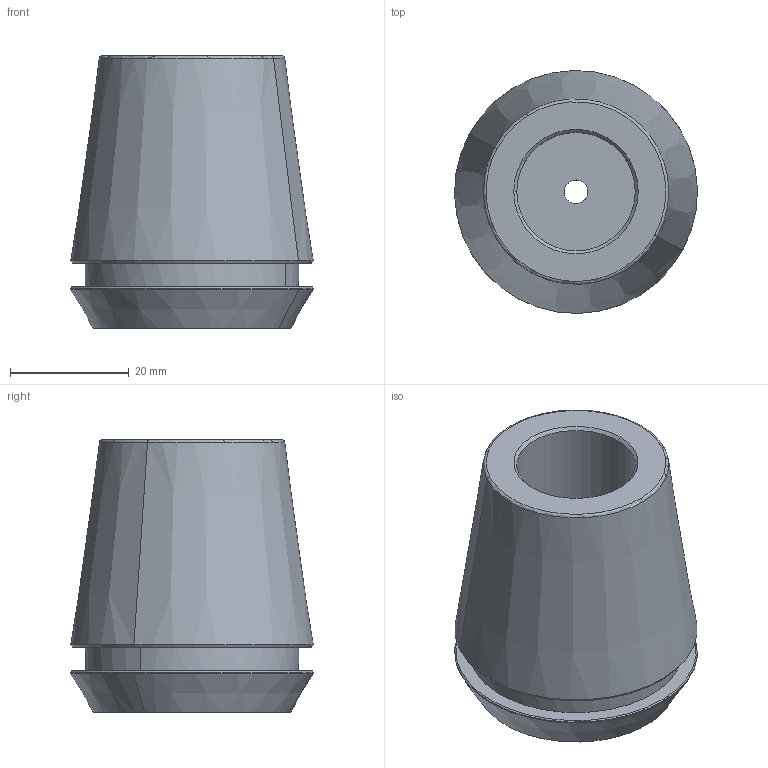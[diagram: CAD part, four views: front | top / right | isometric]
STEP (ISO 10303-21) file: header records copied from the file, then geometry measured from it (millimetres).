
FILE_DESCRIPTION(('CATIA V5 STEP','CAx-IF Rec.Pracs.--- Model Styling and Organization---1.2---2011-12-15'),'2;1');
FILE_NAME('\\nas01\drv1\utils\eitdev\rte\eit\transmagicconvert\db\out\635886399771295235\4511400 M.stp','2016-01-17T13:06:29+00:00',('none'),('none'),'CATIA Version 5 Release 21 SP 5 (IN-10)','CATIA V5 STEP AP214','none');
FILE_SCHEMA(('AUTOMOTIVE_DESIGN { 1 0 10303 214 1 1 1 1 }'));
Length unit declared in the file: millimetre
Products named in the file (1): ER40 SPR 3-4 AA
Bounding box: 40.99 x 40.99 x 46 mm (x, y, z)
Volume: 40921 mm3; surface area: 9178 mm2
Topology: 1 solids, 1 shells, 29 faces, 60 edges, 36 vertices
Faces by surface type: cone 13, cylinder 8, plane 5, torus 3
Entity records: 915 total; most frequent: CARTESIAN_POINT 251, ORIENTED_EDGE 120, DIRECTION 116, AXIS2_PLACEMENT_3D 65, EDGE_CURVE 60, VERTEX_POINT 36, EDGE_LOOP 34, CIRCLE 33
